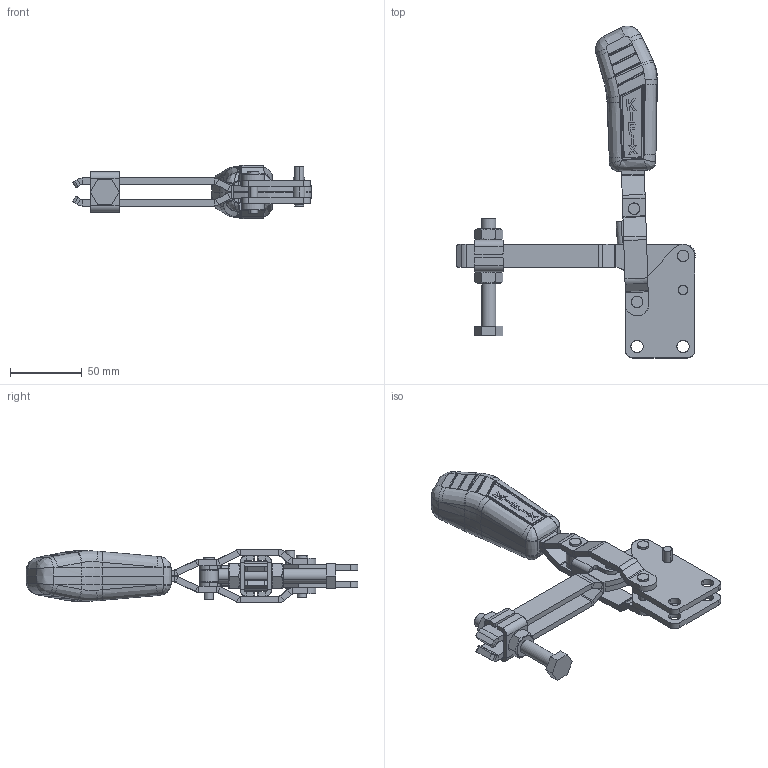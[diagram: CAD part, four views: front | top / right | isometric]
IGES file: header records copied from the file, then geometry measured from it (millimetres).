
Start section: SolidWorks IGES file using analytic representation for surfaces
Global section: file name: C:\Projetos\Grampos\KF-011\KF-011 RBL\KF-011 RBL.IGS; native system: SolidWorks 2013; preprocessor: SolidWorks 2013; author: Ricardo; date: 140728.100710; units: millimetre
Bounding box: 166.22 x 230.79 x 37 mm (x, y, z)
Surface area: 76101.2 mm2 (no closed solid volume)
Topology: 0 solids, 0 shells, 832 faces, 8816 edges, 8785 vertices
Faces by surface type: bspline 520, revolution 312
